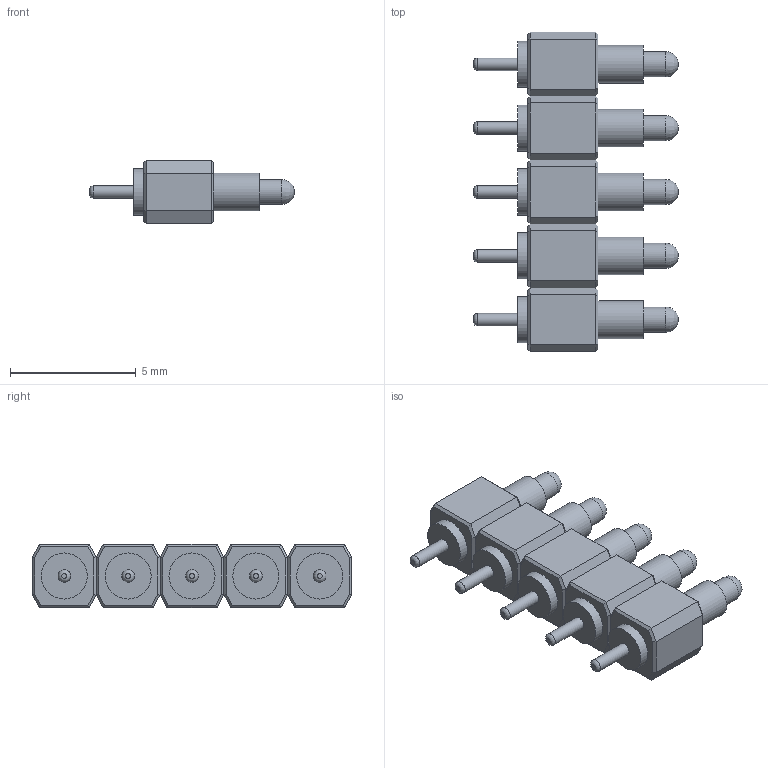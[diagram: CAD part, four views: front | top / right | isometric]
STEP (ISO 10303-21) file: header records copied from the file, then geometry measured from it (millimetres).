
FILE_DESCRIPTION(('FreeCAD Model'),'2;1');
FILE_NAME('Open CASCADE Shape Model','2024-10-25T12:05:34',('Author'),( ''),'Open CASCADE STEP processor 7.5','FreeCAD','Unknown');
FILE_SCHEMA(('AUTOMOTIVE_DESIGN { 1 0 10303 214 1 1 1 1 }'));
Length unit declared in the file: millimetre
Products named in the file (16): 816-22-005; P064; Body097; Contact049; P062; Body102; Contact051; P057; Body098; Contact050; P059; Body096; Contact057; P054; Body122; Contact058
Assembly tree (15 placements, depth 3):
  816-22-005
    P064
      Body097
      Contact049
    P062
      Body102
      Contact051
    P057
      Body098
      Contact050
    P059
      Body096
      Contact057
    P054
      Body122
      Contact058
Bounding box: 8.15 x 12.7 x 2.54 mm (x, y, z)
Volume: 113.6 mm3; surface area: 412.7 mm2
Topology: 10 solids, 10 shells, 190 faces, 375 edges, 220 vertices
Faces by surface type: plane 155, cylinder 25, revolution 10
Full cylindrical faces by diameter (mm): 0.5 x5, 1 x5, 1.5 x10, 1.83 x5
Entity records: 10074 total; most frequent: CARTESIAN_POINT 1651, DIRECTION 1592, LINE 1005, VECTOR 1005, ORIENTED_EDGE 750, PCURVE 750, DEFINITIONAL_REPRESENTATION 750, EDGE_CURVE 375
